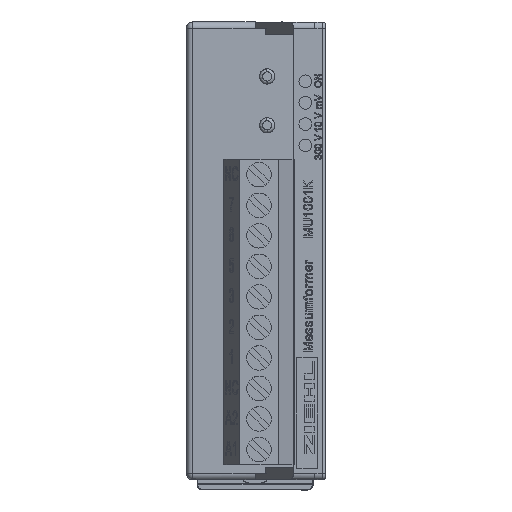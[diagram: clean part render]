
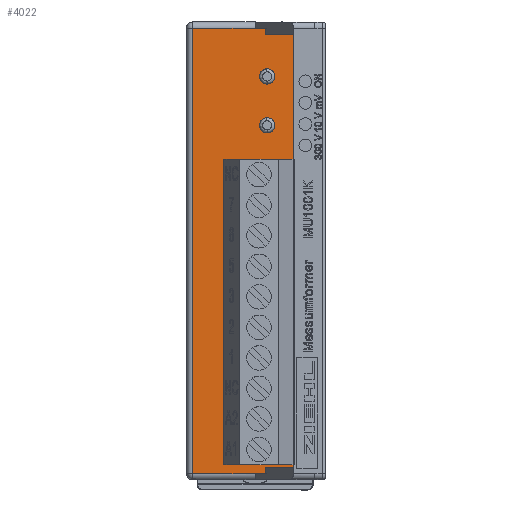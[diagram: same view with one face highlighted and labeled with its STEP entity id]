
A CAD part, left-side view. The second image highlights one B-rep face of the part: STEP entity #4022.
In plain terms, the highlighted planar face has unit normal (-1, 0, 0) as drawn and (1, 0, 0) by its records, which use the part's own axes.
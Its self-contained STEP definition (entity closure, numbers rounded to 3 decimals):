
#1207 = AXIS2_PLACEMENT_3D ( 'NONE', #45517, #3999, #58173 ) ;
#1472 = CARTESIAN_POINT ( 'NONE',  ( 30., -14.3, -36.5 ) ) ;
#1553 = CARTESIAN_POINT ( 'NONE',  ( 30., -16.3, -35.5 ) ) ;
#1963 = CARTESIAN_POINT ( 'NONE',  ( 30., 0.2, -36.5 ) ) ;
#2280 = LINE ( 'NONE', #74617, #63221 ) ;
#3312 = DIRECTION ( 'NONE',  ( 0., 1., 0. ) ) ;
#3885 = LINE ( 'NONE', #38382, #14962 ) ;
#3999 = DIRECTION ( 'NONE',  ( -1., 0., 0. ) ) ;
#4022 = ADVANCED_FACE ( 'NONE', ( #32783 ), #64154, .F. ) ;
#4480 = EDGE_CURVE ( 'NONE', #69552, #8290, #41075, .T. ) ;
#6161 = DIRECTION ( 'NONE',  ( 0., 0., 1. ) ) ;
#7101 = CARTESIAN_POINT ( 'NONE',  ( 30., 0.2, 37.5 ) ) ;
#7426 = CARTESIAN_POINT ( 'NONE',  ( 30., -14.3, 35.5 ) ) ;
#8290 = VERTEX_POINT ( 'NONE', #44983 ) ;
#10937 = ORIENTED_EDGE ( 'NONE', *, *, #16209, .F. ) ;
#13102 = DIRECTION ( 'NONE',  ( 0., 0., 1. ) ) ;
#14962 = VECTOR ( 'NONE', #3312, 1000. ) ;
#15474 = VERTEX_POINT ( 'NONE', #1963 ) ;
#15773 = EDGE_CURVE ( 'NONE', #53503, #15474, #67824, .T. ) ;
#16209 = EDGE_CURVE ( 'NONE', #8290, #34682, #22568, .T. ) ;
#16992 = LINE ( 'NONE', #1553, #21637 ) ;
#17441 = LINE ( 'NONE', #7426, #62703 ) ;
#18483 = LINE ( 'NONE', #7101, #65621 ) ;
#18913 = CARTESIAN_POINT ( 'NONE',  ( 30., 0.2, 36.5 ) ) ;
#20860 = EDGE_CURVE ( 'NONE', #55810, #70523, #28284, .T. ) ;
#20864 = CARTESIAN_POINT ( 'NONE',  ( 30., -14.3, -35.5 ) ) ;
#21637 = VECTOR ( 'NONE', #60621, 1000. ) ;
#21883 = DIRECTION ( 'NONE',  ( 0., 1., 0. ) ) ;
#22568 = LINE ( 'NONE', #71510, #51230 ) ;
#26896 = ORIENTED_EDGE ( 'NONE', *, *, #15773, .T. ) ;
#27446 = ORIENTED_EDGE ( 'NONE', *, *, #4480, .F. ) ;
#27951 = ORIENTED_EDGE ( 'NONE', *, *, #40603, .F. ) ;
#28017 = DIRECTION ( 'NONE',  ( 0., -1., 0. ) ) ;
#28284 = LINE ( 'NONE', #41228, #48602 ) ;
#31141 = CARTESIAN_POINT ( 'NONE',  ( 30., -14.3, 36.5 ) ) ;
#31268 = ORIENTED_EDGE ( 'NONE', *, *, #74896, .F. ) ;
#32783 = FACE_OUTER_BOUND ( 'NONE', #56731, .T. ) ;
#34682 = VERTEX_POINT ( 'NONE', #37165 ) ;
#37165 = CARTESIAN_POINT ( 'NONE',  ( 30., -14.3, 35.5 ) ) ;
#38382 = CARTESIAN_POINT ( 'NONE',  ( 30., -16.3, 36.5 ) ) ;
#40100 = ORIENTED_EDGE ( 'NONE', *, *, #20860, .F. ) ;
#40510 = VERTEX_POINT ( 'NONE', #18913 ) ;
#40603 = EDGE_CURVE ( 'NONE', #49835, #53532, #3885, .T. ) ;
#41075 = LINE ( 'NONE', #74615, #64263 ) ;
#41228 = CARTESIAN_POINT ( 'NONE',  ( 30., -14.3, -37.5 ) ) ;
#44983 = CARTESIAN_POINT ( 'NONE',  ( 30., -16.3, 35.5 ) ) ;
#45116 = CARTESIAN_POINT ( 'NONE',  ( 30., -10.082, -36.5 ) ) ;
#45517 = CARTESIAN_POINT ( 'NONE',  ( 30., 1.2, 37.5 ) ) ;
#45877 = CARTESIAN_POINT ( 'NONE',  ( 30., 1.2, -36.5 ) ) ;
#47472 = DIRECTION ( 'NONE',  ( 0., 1., 0. ) ) ;
#48330 = CARTESIAN_POINT ( 'NONE',  ( 30., -16.3, -35.5 ) ) ;
#48602 = VECTOR ( 'NONE', #6161, 1000. ) ;
#49363 = DIRECTION ( 'NONE',  ( 0., 0., 1. ) ) ;
#49835 = VERTEX_POINT ( 'NONE', #31141 ) ;
#51230 = VECTOR ( 'NONE', #47472, 1000. ) ;
#53503 = VERTEX_POINT ( 'NONE', #45116 ) ;
#53532 = VERTEX_POINT ( 'NONE', #69706 ) ;
#55810 = VERTEX_POINT ( 'NONE', #1472 ) ;
#56670 = VECTOR ( 'NONE', #28017, 1000. ) ;
#56731 = EDGE_LOOP ( 'NONE', ( #70551, #61924, #27951, #74740, #10937, #27446, #31268, #40100, #65629, #26896 ) ) ;
#58173 = DIRECTION ( 'NONE',  ( 0., 0., 1. ) ) ;
#60621 = DIRECTION ( 'NONE',  ( 0., -1., 0. ) ) ;
#61924 = ORIENTED_EDGE ( 'NONE', *, *, #75190, .T. ) ;
#62123 = EDGE_CURVE ( 'NONE', #15474, #40510, #18483, .T. ) ;
#62703 = VECTOR ( 'NONE', #13102, 1000. ) ;
#62748 = DIRECTION ( 'NONE',  ( 0., 1., 0. ) ) ;
#63153 = LINE ( 'NONE', #68861, #56670 ) ;
#63221 = VECTOR ( 'NONE', #62748, 1000. ) ;
#64154 = PLANE ( 'NONE',  #1207 ) ;
#64263 = VECTOR ( 'NONE', #75916, 1000. ) ;
#65621 = VECTOR ( 'NONE', #49363, 1000. ) ;
#65629 = ORIENTED_EDGE ( 'NONE', *, *, #69739, .T. ) ;
#67824 = LINE ( 'NONE', #45877, #76118 ) ;
#68861 = CARTESIAN_POINT ( 'NONE',  ( 30., 1.2, 36.5 ) ) ;
#69552 = VERTEX_POINT ( 'NONE', #48330 ) ;
#69706 = CARTESIAN_POINT ( 'NONE',  ( 30., -10.082, 36.5 ) ) ;
#69739 = EDGE_CURVE ( 'NONE', #55810, #53503, #2280, .T. ) ;
#70523 = VERTEX_POINT ( 'NONE', #20864 ) ;
#70551 = ORIENTED_EDGE ( 'NONE', *, *, #62123, .T. ) ;
#71466 = EDGE_CURVE ( 'NONE', #34682, #49835, #17441, .T. ) ;
#71510 = CARTESIAN_POINT ( 'NONE',  ( 30., -16.3, 35.5 ) ) ;
#74615 = CARTESIAN_POINT ( 'NONE',  ( 30., -16.3, 36.5 ) ) ;
#74617 = CARTESIAN_POINT ( 'NONE',  ( 30., -16.3, -36.5 ) ) ;
#74740 = ORIENTED_EDGE ( 'NONE', *, *, #71466, .F. ) ;
#74896 = EDGE_CURVE ( 'NONE', #70523, #69552, #16992, .T. ) ;
#75190 = EDGE_CURVE ( 'NONE', #40510, #53532, #63153, .T. ) ;
#75916 = DIRECTION ( 'NONE',  ( 0., 0., 1. ) ) ;
#76118 = VECTOR ( 'NONE', #21883, 1000. ) ;
